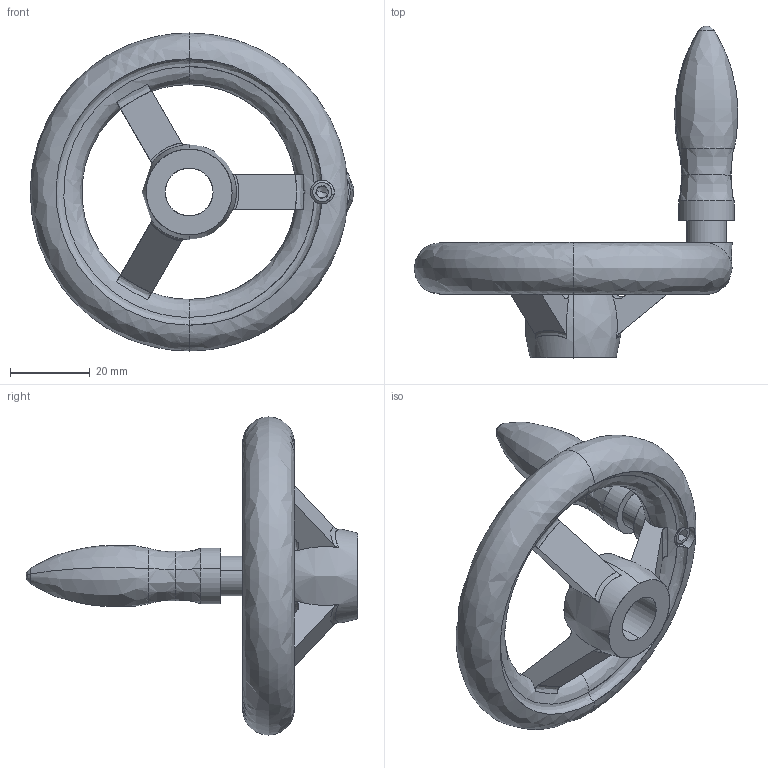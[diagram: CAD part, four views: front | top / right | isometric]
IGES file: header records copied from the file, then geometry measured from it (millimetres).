
Start section: SolidWorks IGES file using analytic representation for surfaces
Global section: file name: C:\Users\IanO\Desktop\Temp File\Process pending\77120_v2\77120_v2_20171108_IGES\77120.W0201.igs; native system: SolidWorks 2017; preprocessor: SolidWorks 2017; author: IanO; date: 171108.084307; units: millimetre
Bounding box: 81.43 x 83.5 x 80 mm (x, y, z)
Surface area: 17165.6 mm2 (no closed solid volume)
Topology: 0 solids, 0 shells, 140 faces, 1743 edges, 1734 vertices
Faces by surface type: bspline 74, revolution 66
